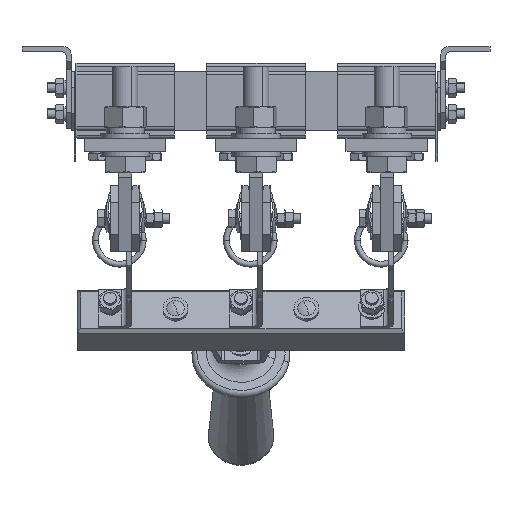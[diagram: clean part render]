
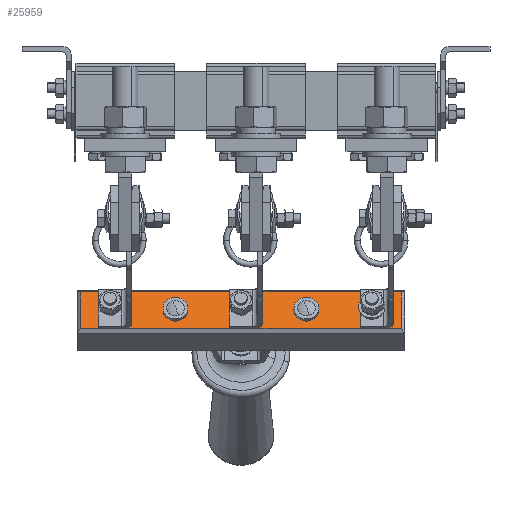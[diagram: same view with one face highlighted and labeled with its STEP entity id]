
A CAD part, front view. The second image highlights one B-rep face of the part: STEP entity #25959.
In plain terms, the highlighted planar face has unit normal (0, -0.866, 0.5).
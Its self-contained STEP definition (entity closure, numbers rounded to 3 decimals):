
#378 = DIRECTION ( 'NONE',  ( 0., -0.866, 0.5 ) ) ;
#415 = AXIS2_PLACEMENT_3D ( 'NONE', #29843, #378, #86169 ) ;
#483 = CARTESIAN_POINT ( 'NONE',  ( 90.8, 91.979, -139.343 ) ) ;
#1055 = EDGE_CURVE ( 'NONE', #33553, #87531, #24455, .T. ) ;
#1791 = CARTESIAN_POINT ( 'NONE',  ( -4.7, 98.479, -128.084 ) ) ;
#2448 = DIRECTION ( 'NONE',  ( 0., 0.866, -0.5 ) ) ;
#2865 = FACE_BOUND ( 'NONE', #21984, .T. ) ;
#3757 = DIRECTION ( 'NONE',  ( 0., 0.866, -0.5 ) ) ;
#3760 = CARTESIAN_POINT ( 'NONE',  ( -107.2, 104.979, -116.826 ) ) ;
#4906 = DIRECTION ( 'NONE',  ( 1., 0., 0. ) ) ;
#5928 = DIRECTION ( 'NONE',  ( 0., -0.5, -0.866 ) ) ;
#6080 = ORIENTED_EDGE ( 'NONE', *, *, #84323, .T. ) ;
#6197 = FACE_OUTER_BOUND ( 'NONE', #74226, .T. ) ;
#6307 = EDGE_LOOP ( 'NONE', ( #90742, #6080 ) ) ;
#6654 = VERTEX_POINT ( 'NONE', #15808 ) ;
#7192 = CARTESIAN_POINT ( 'NONE',  ( -56.8, 98.479, -128.084 ) ) ;
#7964 = DIRECTION ( 'NONE',  ( -1., 0., 0. ) ) ;
#8212 = EDGE_CURVE ( 'NONE', #81404, #14118, #27077, .T. ) ;
#8787 = DIRECTION ( 'NONE',  ( 0., 0.866, -0.5 ) ) ;
#10416 = CIRCLE ( 'NONE', #30408, 7.6 ) ;
#10493 = CARTESIAN_POINT ( 'NONE',  ( -13.7, 98.479, -128.084 ) ) ;
#12158 = ORIENTED_EDGE ( 'NONE', *, *, #61837, .T. ) ;
#14118 = VERTEX_POINT ( 'NONE', #25197 ) ;
#14281 = DIRECTION ( 'NONE',  ( 0., -0.866, 0.5 ) ) ;
#14601 = ORIENTED_EDGE ( 'NONE', *, *, #33482, .T. ) ;
#15278 = DIRECTION ( 'NONE',  ( 1., 0., 0. ) ) ;
#15438 = EDGE_CURVE ( 'NONE', #6654, #45283, #88996, .T. ) ;
#15808 = CARTESIAN_POINT ( 'NONE',  ( -41.6, 98.479, -128.084 ) ) ;
#16174 = EDGE_LOOP ( 'NONE', ( #78159, #16718 ) ) ;
#16239 = ORIENTED_EDGE ( 'NONE', *, *, #1055, .T. ) ;
#16284 = DIRECTION ( 'NONE',  ( 0., 0.866, -0.5 ) ) ;
#16718 = ORIENTED_EDGE ( 'NONE', *, *, #15438, .F. ) ;
#17616 = LINE ( 'NONE', #483, #31020 ) ;
#19496 = FACE_BOUND ( 'NONE', #16174, .T. ) ;
#20171 = VERTEX_POINT ( 'NONE', #10493 ) ;
#20902 = AXIS2_PLACEMENT_3D ( 'NONE', #38823, #66341, #58961 ) ;
#21401 = CIRCLE ( 'NONE', #86190, 4.5 ) ;
#21984 = EDGE_LOOP ( 'NONE', ( #67941, #24582 ) ) ;
#22389 = VERTEX_POINT ( 'NONE', #69101 ) ;
#22606 = ORIENTED_EDGE ( 'NONE', *, *, #85682, .T. ) ;
#23364 = VERTEX_POINT ( 'NONE', #24526 ) ;
#23566 = CIRCLE ( 'NONE', #27178, 4.5 ) ;
#24412 = LINE ( 'NONE', #35002, #71080 ) ;
#24447 = CARTESIAN_POINT ( 'NONE',  ( -93.7, 98.479, -128.084 ) ) ;
#24455 = CIRCLE ( 'NONE', #81785, 4.5 ) ;
#24526 = CARTESIAN_POINT ( 'NONE',  ( 75.3, 98.479, -128.084 ) ) ;
#24582 = ORIENTED_EDGE ( 'NONE', *, *, #8212, .F. ) ;
#25197 = CARTESIAN_POINT ( 'NONE',  ( 38.4, 98.479, -128.084 ) ) ;
#25628 = DIRECTION ( 'NONE',  ( 1., 0., 0. ) ) ;
#25959 = ADVANCED_FACE ( 'NONE', ( #2865, #19496, #6197, #68257, #81528, #61588 ), #44109, .T. ) ;
#26166 = ORIENTED_EDGE ( 'NONE', *, *, #47972, .T. ) ;
#26251 = DIRECTION ( 'NONE',  ( 0., -0.866, 0.5 ) ) ;
#26853 = AXIS2_PLACEMENT_3D ( 'NONE', #68128, #26251, #25628 ) ;
#27077 = CIRCLE ( 'NONE', #26853, 7.6 ) ;
#27178 = AXIS2_PLACEMENT_3D ( 'NONE', #71707, #8787, #15278 ) ;
#28035 = DIRECTION ( 'NONE',  ( 1., 0., 0. ) ) ;
#29466 = AXIS2_PLACEMENT_3D ( 'NONE', #37586, #87015, #58334 ) ;
#29575 = AXIS2_PLACEMENT_3D ( 'NONE', #75654, #3757, #68226 ) ;
#29843 = CARTESIAN_POINT ( 'NONE',  ( -49.2, 98.479, -128.084 ) ) ;
#30408 = AXIS2_PLACEMENT_3D ( 'NONE', #77256, #34825, #76006 ) ;
#30802 = EDGE_CURVE ( 'NONE', #87531, #33553, #23566, .T. ) ;
#31020 = VECTOR ( 'NONE', #28035, 1000. ) ;
#31299 = DIRECTION ( 'NONE',  ( -1., 0., 0. ) ) ;
#31642 = LINE ( 'NONE', #41324, #33857 ) ;
#32302 = CIRCLE ( 'NONE', #47467, 7.6 ) ;
#33482 = EDGE_CURVE ( 'NONE', #62798, #20171, #82907, .T. ) ;
#33553 = VERTEX_POINT ( 'NONE', #24447 ) ;
#33857 = VECTOR ( 'NONE', #5928, 1000. ) ;
#34825 = DIRECTION ( 'NONE',  ( 0., -0.866, 0.5 ) ) ;
#35002 = CARTESIAN_POINT ( 'NONE',  ( 88.8, 105.979, -115.094 ) ) ;
#36521 = CARTESIAN_POINT ( 'NONE',  ( 70.8, 98.479, -128.084 ) ) ;
#37325 = EDGE_LOOP ( 'NONE', ( #14601, #45936 ) ) ;
#37586 = CARTESIAN_POINT ( 'NONE',  ( -109.2, 90.979, -141.075 ) ) ;
#37850 = LINE ( 'NONE', #73084, #54440 ) ;
#38823 = CARTESIAN_POINT ( 'NONE',  ( -9.2, 98.479, -128.084 ) ) ;
#41324 = CARTESIAN_POINT ( 'NONE',  ( -107.2, 90.979, -141.075 ) ) ;
#42357 = VERTEX_POINT ( 'NONE', #3760 ) ;
#43952 = ORIENTED_EDGE ( 'NONE', *, *, #71481, .T. ) ;
#44109 = PLANE ( 'NONE',  #29466 ) ;
#44639 = CARTESIAN_POINT ( 'NONE',  ( 66.3, 98.479, -128.084 ) ) ;
#45283 = VERTEX_POINT ( 'NONE', #7192 ) ;
#45642 = CARTESIAN_POINT ( 'NONE',  ( 88.8, 91.979, -139.343 ) ) ;
#45936 = ORIENTED_EDGE ( 'NONE', *, *, #75001, .T. ) ;
#47467 = AXIS2_PLACEMENT_3D ( 'NONE', #91673, #14281, #63879 ) ;
#47972 = EDGE_CURVE ( 'NONE', #22389, #68773, #17616, .T. ) ;
#51508 = DIRECTION ( 'NONE',  ( 1., 0., 0. ) ) ;
#53667 = VERTEX_POINT ( 'NONE', #86387 ) ;
#53841 = CARTESIAN_POINT ( 'NONE',  ( -84.7, 98.479, -128.084 ) ) ;
#54440 = VECTOR ( 'NONE', #31299, 1000. ) ;
#58102 = CARTESIAN_POINT ( 'NONE',  ( 23.2, 98.479, -128.084 ) ) ;
#58334 = DIRECTION ( 'NONE',  ( -1., 0., 0. ) ) ;
#58611 = CARTESIAN_POINT ( 'NONE',  ( -9.2, 98.479, -128.084 ) ) ;
#58961 = DIRECTION ( 'NONE',  ( 1., 0., 0. ) ) ;
#61324 = CARTESIAN_POINT ( 'NONE',  ( -89.2, 98.479, -128.084 ) ) ;
#61588 = FACE_BOUND ( 'NONE', #37325, .T. ) ;
#61837 = EDGE_CURVE ( 'NONE', #42357, #22389, #31642, .T. ) ;
#62763 = VERTEX_POINT ( 'NONE', #44639 ) ;
#62798 = VERTEX_POINT ( 'NONE', #1791 ) ;
#62869 = CIRCLE ( 'NONE', #72664, 4.5 ) ;
#62874 = CIRCLE ( 'NONE', #29575, 4.5 ) ;
#63879 = DIRECTION ( 'NONE',  ( -1., 0., 0. ) ) ;
#66341 = DIRECTION ( 'NONE',  ( 0., 0.866, -0.5 ) ) ;
#66783 = EDGE_CURVE ( 'NONE', #45283, #6654, #32302, .T. ) ;
#67941 = ORIENTED_EDGE ( 'NONE', *, *, #75788, .F. ) ;
#68128 = CARTESIAN_POINT ( 'NONE',  ( 30.8, 98.479, -128.084 ) ) ;
#68226 = DIRECTION ( 'NONE',  ( -1., 0., 0. ) ) ;
#68257 = FACE_BOUND ( 'NONE', #6307, .T. ) ;
#68773 = VERTEX_POINT ( 'NONE', #45642 ) ;
#69101 = CARTESIAN_POINT ( 'NONE',  ( -107.2, 91.979, -139.343 ) ) ;
#71080 = VECTOR ( 'NONE', #85428, 1000. ) ;
#71481 = EDGE_CURVE ( 'NONE', #53667, #42357, #37850, .T. ) ;
#71707 = CARTESIAN_POINT ( 'NONE',  ( -89.2, 98.479, -128.084 ) ) ;
#72664 = AXIS2_PLACEMENT_3D ( 'NONE', #58611, #2448, #51508 ) ;
#73084 = CARTESIAN_POINT ( 'NONE',  ( -109.2, 104.979, -116.826 ) ) ;
#73923 = EDGE_CURVE ( 'NONE', #62763, #23364, #21401, .T. ) ;
#74226 = EDGE_LOOP ( 'NONE', ( #43952, #12158, #26166, #22606 ) ) ;
#74933 = ORIENTED_EDGE ( 'NONE', *, *, #30802, .T. ) ;
#75001 = EDGE_CURVE ( 'NONE', #20171, #62798, #62869, .T. ) ;
#75623 = EDGE_LOOP ( 'NONE', ( #74933, #16239 ) ) ;
#75654 = CARTESIAN_POINT ( 'NONE',  ( 70.8, 98.479, -128.084 ) ) ;
#75788 = EDGE_CURVE ( 'NONE', #14118, #81404, #10416, .T. ) ;
#76006 = DIRECTION ( 'NONE',  ( 1., 0., 0. ) ) ;
#77256 = CARTESIAN_POINT ( 'NONE',  ( 30.8, 98.479, -128.084 ) ) ;
#78159 = ORIENTED_EDGE ( 'NONE', *, *, #66783, .F. ) ;
#81404 = VERTEX_POINT ( 'NONE', #58102 ) ;
#81528 = FACE_BOUND ( 'NONE', #75623, .T. ) ;
#81785 = AXIS2_PLACEMENT_3D ( 'NONE', #61324, #89759, #4906 ) ;
#82907 = CIRCLE ( 'NONE', #20902, 4.5 ) ;
#84323 = EDGE_CURVE ( 'NONE', #23364, #62763, #62874, .T. ) ;
#85428 = DIRECTION ( 'NONE',  ( 0., 0.5, 0.866 ) ) ;
#85682 = EDGE_CURVE ( 'NONE', #68773, #53667, #24412, .T. ) ;
#86169 = DIRECTION ( 'NONE',  ( -1., 0., 0. ) ) ;
#86190 = AXIS2_PLACEMENT_3D ( 'NONE', #36521, #16284, #7964 ) ;
#86387 = CARTESIAN_POINT ( 'NONE',  ( 88.8, 104.979, -116.826 ) ) ;
#87015 = DIRECTION ( 'NONE',  ( 0., -0.866, 0.5 ) ) ;
#87531 = VERTEX_POINT ( 'NONE', #53841 ) ;
#88996 = CIRCLE ( 'NONE', #415, 7.6 ) ;
#89759 = DIRECTION ( 'NONE',  ( 0., 0.866, -0.5 ) ) ;
#90742 = ORIENTED_EDGE ( 'NONE', *, *, #73923, .T. ) ;
#91673 = CARTESIAN_POINT ( 'NONE',  ( -49.2, 98.479, -128.084 ) ) ;
